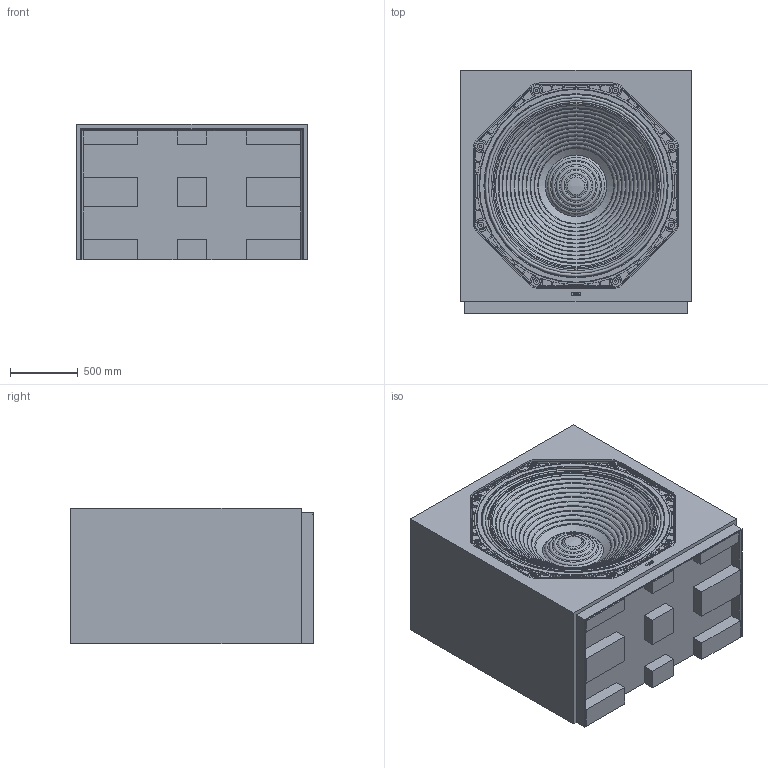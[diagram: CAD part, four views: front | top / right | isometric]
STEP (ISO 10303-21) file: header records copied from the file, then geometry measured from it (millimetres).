
FILE_DESCRIPTION(/* description */ (''),/* implementation_level */ '2;1');
FILE_NAME(/* name */ '3D Drawings THE50_SUB_PRO_PS_1000mm.step',/* time_stamp */ '2025-05-04T12:02:46+02:00',/* author */ (''),/* organization */ (''),/* preprocessor_version */ 'ST-DEVELOPER v20.1',/* originating_system */ 'Autodesk Translation Framework v14.4.0.0',/* authorisation */ '');
FILE_SCHEMA (('AUTOMOTIVE_DESIGN { 1 0 10303 214 3 1 1 }'));
Products named in the file (1): 3D Drawings THE50_SUB_PRO_PS__2025_v27_1000mm
Bounding box: 1700 x 1790 x 1000 mm (x, y, z)
Volume: 2757296263.8 mm3; surface area: 17657457.3 mm2
Topology: 37 solids, 62 shells, 2333 faces, 6050 edges, 3982 vertices
Faces by surface type: plane 1094, cylinder 833, bspline 264, torus 93, cone 39, sphere 10
Full cylindrical faces by diameter (mm): 3 x6, 4.5 x6, 5 x1, 6 x8, 14.9 x1, 16 x8, 17.6 x1, 21 x1, 23.6 x1, 24.25 x1, 25.9 x1, 26.5 x1, 47 x8, 1350 x1, 1430 x1
Entity records: 78329 total; most frequent: CARTESIAN_POINT 20991, ORIENTED_EDGE 12098, DIRECTION 11783, EDGE_CURVE 6049, AXIS2_PLACEMENT_3D 4184, VERTEX_POINT 3983, LINE 3415, VECTOR 3415
